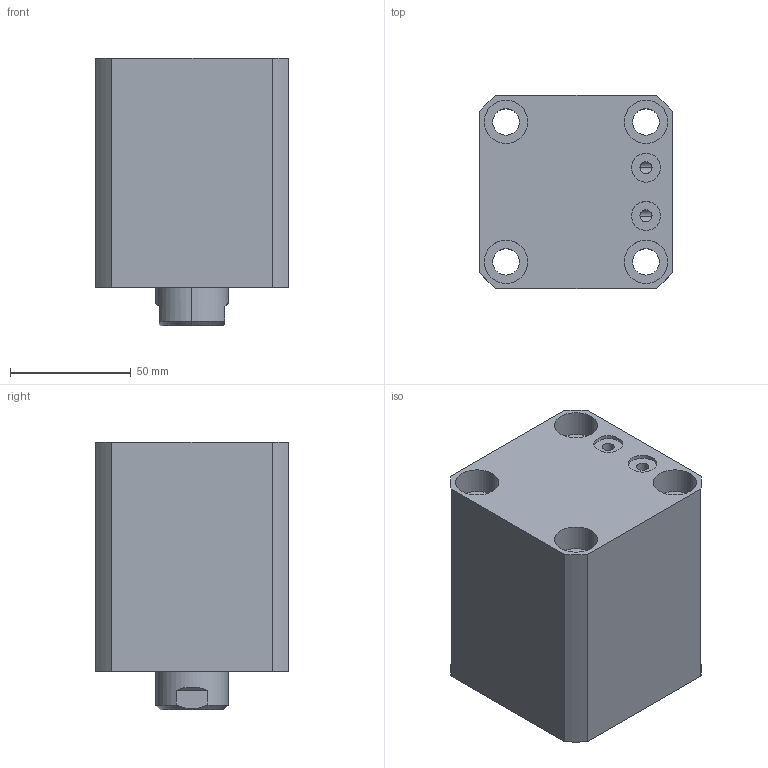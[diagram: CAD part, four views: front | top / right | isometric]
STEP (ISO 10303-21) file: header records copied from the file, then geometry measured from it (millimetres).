
FILE_DESCRIPTION (( 'STEP AP203' ), '1' );
FILE_NAME ('CHTB-SDMB50-35N.STEP', '2018-05-19T03:58:15', ( '' ), ( '' ), 'SwSTEP 2.0', 'SolidWorks 2015', '' );
FILE_SCHEMA (( 'CONFIG_CONTROL_DESIGN' ));
Length unit declared in the file: millimetre
Products named in the file (5): 活塞杆SDMB50-35N; M6; 掛极SDMB50-35N; CHTB-SDMB50-35N; CHTM-SDMA50QG
Assembly tree (5 placements, depth 2):
  CHTB-SDMB50-35N
    掛极SDMB50-35N
    活塞杆SDMB50-35N
    CHTM-SDMA50QG
    M6  x2
Bounding box: 80 x 80 x 111 mm (x, y, z)
Volume: 507722.6 mm3; surface area: 103449.3 mm2
Topology: 5 solids, 5 shells, 263 faces, 693 edges, 458 vertices
Faces by surface type: cylinder 135, plane 55, cone 31, bspline 26, torus 16
Entity records: 13963 total; most frequent: CARTESIAN_POINT 8102, ORIENTED_EDGE 1188, DIRECTION 1016, EDGE_CURVE 594, AXIS2_PLACEMENT_3D 416, VERTEX_POINT 397, EDGE_LOOP 269, ADVANCED_FACE 228
